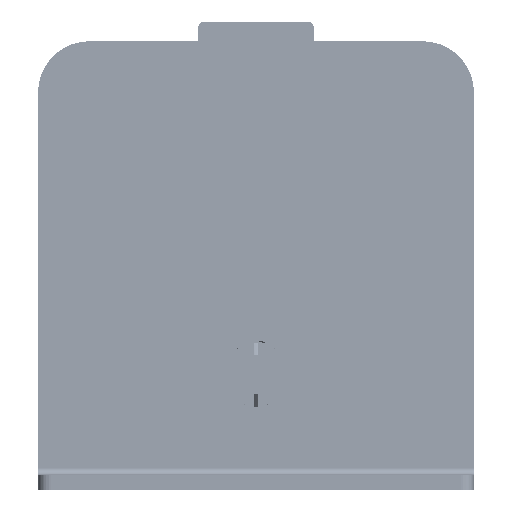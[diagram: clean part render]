
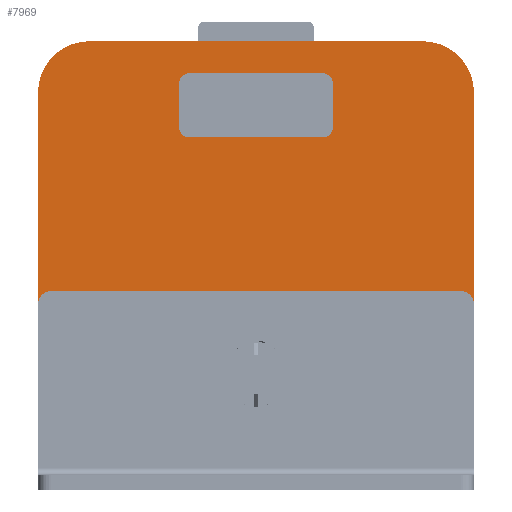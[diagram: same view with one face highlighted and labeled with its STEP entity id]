
A CAD part, left-side view. The second image highlights one B-rep face of the part: STEP entity #7969.
In plain terms, the highlighted planar face has unit normal (-1, 0, 0).
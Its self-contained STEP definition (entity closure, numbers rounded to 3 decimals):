
#7969=ADVANCED_FACE('',(#108172,#108174),#108176,.T.);
#108172=FACE_BOUND('',#108173,.T.);
#108173=EDGE_LOOP('',(#191419,#191420,#191421,#191422,#191423,#191424,#191425,#191426));
#108174=FACE_BOUND('',#108175,.T.);
#108175=EDGE_LOOP('',(#191427,#191428,#191429,#191430,#191431,#191432,#191433,#191434));
#108176=PLANE('',#108177);
#108177=AXIS2_PLACEMENT_3D('',#108178,#108179,#108180);
#108178=CARTESIAN_POINT('',(-92.5,0.,0.));
#108179=DIRECTION('',(-1.,0.,0.));
#108180=DIRECTION('',(0.,-1.,0.));
#191419=ORIENTED_EDGE('',*,*,#253092,.F.);
#191420=ORIENTED_EDGE('',*,*,#251114,.T.);
#191421=ORIENTED_EDGE('',*,*,#253091,.T.);
#191422=ORIENTED_EDGE('',*,*,#253093,.T.);
#191423=ORIENTED_EDGE('',*,*,#253094,.T.);
#191424=ORIENTED_EDGE('',*,*,#251247,.T.);
#191425=ORIENTED_EDGE('',*,*,#253095,.F.);
#191426=ORIENTED_EDGE('',*,*,#253096,.F.);
#191427=ORIENTED_EDGE('',*,*,#253097,.T.);
#191428=ORIENTED_EDGE('',*,*,#253098,.T.);
#191429=ORIENTED_EDGE('',*,*,#253099,.T.);
#191430=ORIENTED_EDGE('',*,*,#253100,.T.);
#191431=ORIENTED_EDGE('',*,*,#253101,.T.);
#191432=ORIENTED_EDGE('',*,*,#253102,.T.);
#191433=ORIENTED_EDGE('',*,*,#253103,.T.);
#191434=ORIENTED_EDGE('',*,*,#253104,.T.);
#251114=EDGE_CURVE('',#283696,#283694,#283697,.T.);
#251247=EDGE_CURVE('',#283954,#283952,#283955,.T.);
#253091=EDGE_CURVE('',#283694,#286834,#286836,.T.);
#253092=EDGE_CURVE('',#283696,#286837,#286838,.F.);
#253093=EDGE_CURVE('',#286834,#286839,#286840,.T.);
#253094=EDGE_CURVE('',#286839,#283954,#286841,.T.);
#253095=EDGE_CURVE('',#286842,#283952,#286843,.F.);
#253096=EDGE_CURVE('',#286837,#286842,#286844,.T.);
#253097=EDGE_CURVE('',#286845,#286846,#286847,.F.);
#253098=EDGE_CURVE('',#286846,#286848,#286849,.F.);
#253099=EDGE_CURVE('',#286848,#286850,#286851,.F.);
#253100=EDGE_CURVE('',#286850,#286852,#286853,.F.);
#253101=EDGE_CURVE('',#286852,#286854,#286855,.F.);
#253102=EDGE_CURVE('',#286854,#286856,#286857,.F.);
#253103=EDGE_CURVE('',#286856,#286858,#286859,.F.);
#253104=EDGE_CURVE('',#286858,#286845,#286860,.F.);
#283694=VERTEX_POINT('',#338709);
#283696=VERTEX_POINT('',#338713);
#283697=LINE('',#338714,#338715);
#283952=VERTEX_POINT('',#339250);
#283954=VERTEX_POINT('',#339254);
#283955=LINE('',#339255,#339256);
#286834=VERTEX_POINT('',#346404);
#286836=CIRCLE('',#346408,4.);
#286837=VERTEX_POINT('',#346412);
#286838=CIRCLE('',#346413,1.);
#286839=VERTEX_POINT('',#346417);
#286840=LINE('',#346418,#346419);
#286841=CIRCLE('',#346421,4.);
#286842=VERTEX_POINT('',#346425);
#286843=CIRCLE('',#346426,1.);
#286844=LINE('',#346430,#346431);
#286845=VERTEX_POINT('',#346433);
#286846=VERTEX_POINT('',#346434);
#286847=CIRCLE('',#346435,0.8);
#286848=VERTEX_POINT('',#346439);
#286849=LINE('',#346440,#346441);
#286850=VERTEX_POINT('',#346443);
#286851=CIRCLE('',#346444,0.8);
#286852=VERTEX_POINT('',#346448);
#286853=LINE('',#346449,#346450);
#286854=VERTEX_POINT('',#346452);
#286855=CIRCLE('',#346453,0.8);
#286856=VERTEX_POINT('',#346457);
#286857=LINE('',#346458,#346459);
#286858=VERTEX_POINT('',#346461);
#286859=CIRCLE('',#346462,0.8);
#286860=LINE('',#346466,#346467);
#338709=CARTESIAN_POINT('',(-92.5,-34.,31.));
#338713=CARTESIAN_POINT('',(-92.5,-34.,14.5));
#338714=CARTESIAN_POINT('',(-92.5,-34.,14.5));
#338715=VECTOR('',#338716,1.);
#338716=DIRECTION('',(0.,0.,1.));
#339250=CARTESIAN_POINT('',(-92.5,0.,14.5));
#339254=CARTESIAN_POINT('',(-92.5,0.,31.));
#339255=CARTESIAN_POINT('',(-92.5,0.,31.));
#339256=VECTOR('',#339257,1.);
#339257=DIRECTION('',(0.,0.,-1.));
#346404=CARTESIAN_POINT('',(-92.5,-30.,35.));
#346408=AXIS2_PLACEMENT_3D('',#346409,#346410,#346411);
#346409=CARTESIAN_POINT('',(-92.5,-30.,31.));
#346410=DIRECTION('',(-1.,0.,0.));
#346411=DIRECTION('',(0.,-1.,0.));
#346412=CARTESIAN_POINT('',(-92.5,-33.,15.5));
#346413=AXIS2_PLACEMENT_3D('',#346414,#346415,#346416);
#346414=CARTESIAN_POINT('',(-92.5,-33.,14.5));
#346415=DIRECTION('',(1.,0.,0.));
#346416=DIRECTION('',(0.,0.,1.));
#346417=CARTESIAN_POINT('',(-92.5,-4.,35.));
#346418=CARTESIAN_POINT('',(-92.5,-30.,35.));
#346419=VECTOR('',#346420,1.);
#346420=DIRECTION('',(0.,1.,0.));
#346421=AXIS2_PLACEMENT_3D('',#346422,#346423,#346424);
#346422=CARTESIAN_POINT('',(-92.5,-4.,31.));
#346423=DIRECTION('',(-1.,0.,0.));
#346424=DIRECTION('',(0.,0.,1.));
#346425=CARTESIAN_POINT('',(-92.5,-1.,15.5));
#346426=AXIS2_PLACEMENT_3D('',#346427,#346428,#346429);
#346427=CARTESIAN_POINT('',(-92.5,-1.,14.5));
#346428=DIRECTION('',(1.,0.,0.));
#346429=DIRECTION('',(0.,1.,0.));
#346430=CARTESIAN_POINT('',(-92.5,-33.,15.5));
#346431=VECTOR('',#346432,1.);
#346432=DIRECTION('',(0.,1.,0.));
#346433=CARTESIAN_POINT('',(-92.5,-11.8,27.5));
#346434=CARTESIAN_POINT('',(-92.5,-11.,28.3));
#346435=AXIS2_PLACEMENT_3D('',#346436,#346437,#346438);
#346436=CARTESIAN_POINT('',(-92.5,-11.8,28.3));
#346437=DIRECTION('',(-1.,0.,0.));
#346438=DIRECTION('',(0.,1.,0.));
#346439=CARTESIAN_POINT('',(-92.5,-11.,31.7));
#346440=CARTESIAN_POINT('',(-92.5,-11.,31.7));
#346441=VECTOR('',#346442,1.);
#346442=DIRECTION('',(0.,0.,-1.));
#346443=CARTESIAN_POINT('',(-92.5,-11.8,32.5));
#346444=AXIS2_PLACEMENT_3D('',#346445,#346446,#346447);
#346445=CARTESIAN_POINT('',(-92.5,-11.8,31.7));
#346446=DIRECTION('',(-1.,0.,0.));
#346447=DIRECTION('',(0.,0.,1.));
#346448=CARTESIAN_POINT('',(-92.5,-22.2,32.5));
#346449=CARTESIAN_POINT('',(-92.5,-22.2,32.5));
#346450=VECTOR('',#346451,1.);
#346451=DIRECTION('',(0.,1.,0.));
#346452=CARTESIAN_POINT('',(-92.5,-23.,31.7));
#346453=AXIS2_PLACEMENT_3D('',#346454,#346455,#346456);
#346454=CARTESIAN_POINT('',(-92.5,-22.2,31.7));
#346455=DIRECTION('',(-1.,0.,0.));
#346456=DIRECTION('',(0.,-1.,0.));
#346457=CARTESIAN_POINT('',(-92.5,-23.,28.3));
#346458=CARTESIAN_POINT('',(-92.5,-23.,28.3));
#346459=VECTOR('',#346460,1.);
#346460=DIRECTION('',(0.,0.,1.));
#346461=CARTESIAN_POINT('',(-92.5,-22.2,27.5));
#346462=AXIS2_PLACEMENT_3D('',#346463,#346464,#346465);
#346463=CARTESIAN_POINT('',(-92.5,-22.2,28.3));
#346464=DIRECTION('',(-1.,0.,0.));
#346465=DIRECTION('',(0.,0.,-1.));
#346466=CARTESIAN_POINT('',(-92.5,-11.8,27.5));
#346467=VECTOR('',#346468,1.);
#346468=DIRECTION('',(0.,-1.,0.));
